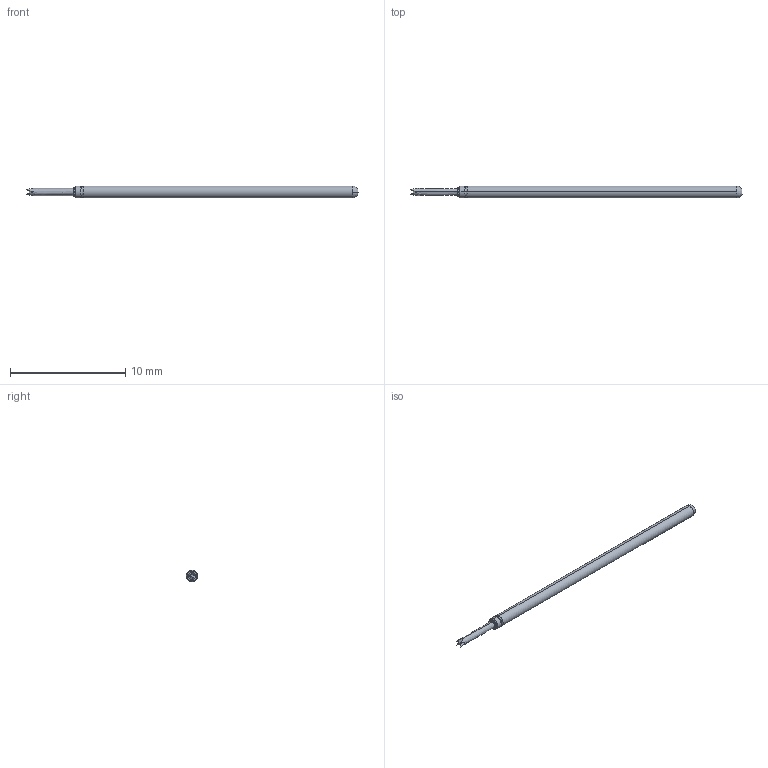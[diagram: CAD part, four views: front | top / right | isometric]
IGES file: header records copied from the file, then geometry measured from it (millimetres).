
Start section: SolidWorks IGES file using analytic representation for surfaces
Global section: file name: Z:\probe solid model mockups\Solidworks models\Parts\LFRE-1L24 RECD.IGS; native system: SolidWorks 2016; preprocessor: SolidWorks 2016; author: mlee; date: 180927.163711; units: inch
Bounding box: 28.78 x 1.02 x 1.02 mm (x, y, z)
Surface area: 87.4 mm2 (no closed solid volume)
Topology: 0 solids, 0 shells, 26 faces, 170 edges, 170 vertices
Faces by surface type: bspline 14, revolution 12
